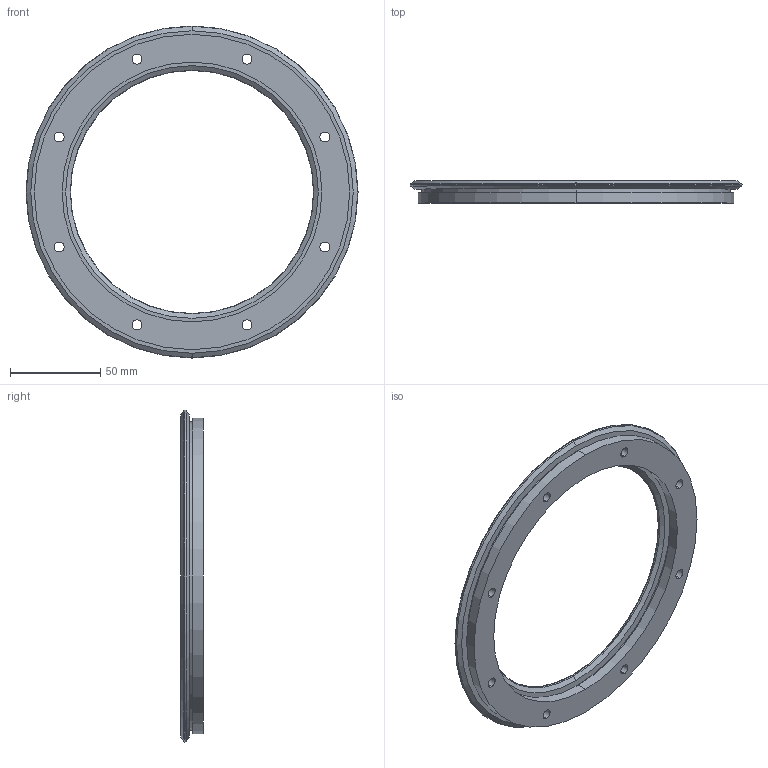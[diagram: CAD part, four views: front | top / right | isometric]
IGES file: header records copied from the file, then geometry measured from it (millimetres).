
Start section: 3D InterOp IGES (v. 2020 1.0.1), Spatial Corp. Copyright (c) 1999-2017.
Global section: file name: r25_159_r360.igs; native system: Spatial Corp.; preprocessor: 3D InterOp ACIS/IGES; author: TraceParts; organization: TraceParts S.A.; date: 20220624.025316; units: millimetre
Bounding box: 183.61 x 12.25 x 183.61 mm (x, y, z)
Surface area: 40001 mm2 (no closed solid volume)
Topology: 0 solids, 0 shells, 70 faces, 312 edges, 312 vertices
Faces by surface type: revolution 56, extrusion 14
